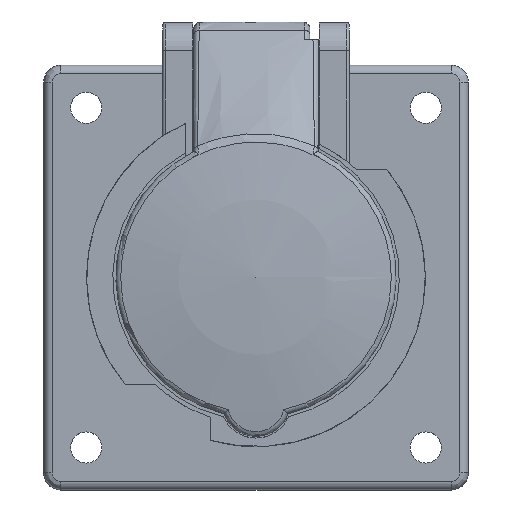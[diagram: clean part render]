
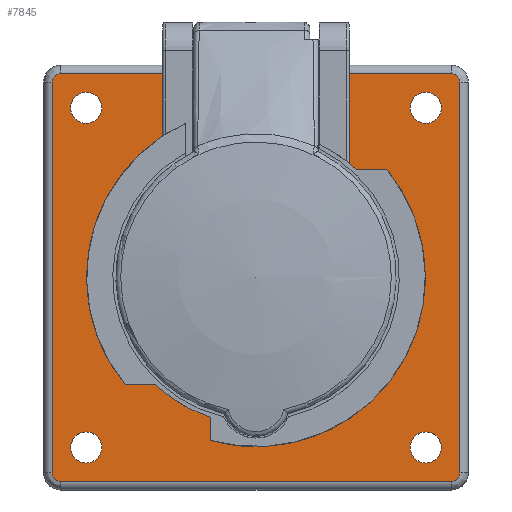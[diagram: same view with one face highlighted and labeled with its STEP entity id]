
A CAD part, top view. The second image highlights one B-rep face of the part: STEP entity #7845.
In plain terms, the highlighted planar face has unit normal (0, 0, 1).
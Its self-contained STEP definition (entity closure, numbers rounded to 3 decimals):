
#7845 = ADVANCED_FACE('',(#7846,#7916,#7936,#7956,#7976,#7996),#8118,.T.
  );
#7846 = FACE_BOUND('',#7847,.T.);
#7847 = EDGE_LOOP('',(#7848,#7858,#7867,#7875,#7884,#7892,#7901,#7909));
#7848 = ORIENTED_EDGE('',*,*,#7849,.T.);
#7849 = EDGE_CURVE('',#7850,#7852,#7854,.T.);
#7850 = VERTEX_POINT('',#7851);
#7851 = CARTESIAN_POINT('',(34.5,36.,4.));
#7852 = VERTEX_POINT('',#7853);
#7853 = CARTESIAN_POINT('',(-34.5,36.,4.));
#7854 = LINE('',#7855,#7856);
#7855 = CARTESIAN_POINT('',(34.5,36.,4.));
#7856 = VECTOR('',#7857,1.);
#7857 = DIRECTION('',(-1.,0.,0.));
#7858 = ORIENTED_EDGE('',*,*,#7859,.T.);
#7859 = EDGE_CURVE('',#7852,#7860,#7862,.T.);
#7860 = VERTEX_POINT('',#7861);
#7861 = CARTESIAN_POINT('',(-36.,34.5,4.));
#7862 = CIRCLE('',#7863,1.5);
#7863 = AXIS2_PLACEMENT_3D('',#7864,#7865,#7866);
#7864 = CARTESIAN_POINT('',(-34.5,34.5,4.));
#7865 = DIRECTION('',(0.,-0.,1.));
#7866 = DIRECTION('',(0.,1.,0.));
#7867 = ORIENTED_EDGE('',*,*,#7868,.T.);
#7868 = EDGE_CURVE('',#7860,#7869,#7871,.T.);
#7869 = VERTEX_POINT('',#7870);
#7870 = CARTESIAN_POINT('',(-36.,-34.5,4.));
#7871 = LINE('',#7872,#7873);
#7872 = CARTESIAN_POINT('',(-36.,34.5,4.));
#7873 = VECTOR('',#7874,1.);
#7874 = DIRECTION('',(0.,-1.,0.));
#7875 = ORIENTED_EDGE('',*,*,#7876,.T.);
#7876 = EDGE_CURVE('',#7869,#7877,#7879,.T.);
#7877 = VERTEX_POINT('',#7878);
#7878 = CARTESIAN_POINT('',(-34.5,-36.,4.));
#7879 = CIRCLE('',#7880,1.5);
#7880 = AXIS2_PLACEMENT_3D('',#7881,#7882,#7883);
#7881 = CARTESIAN_POINT('',(-34.5,-34.5,4.));
#7882 = DIRECTION('',(0.,0.,1.));
#7883 = DIRECTION('',(-1.,0.,0.));
#7884 = ORIENTED_EDGE('',*,*,#7885,.T.);
#7885 = EDGE_CURVE('',#7877,#7886,#7888,.T.);
#7886 = VERTEX_POINT('',#7887);
#7887 = CARTESIAN_POINT('',(34.5,-36.,4.));
#7888 = LINE('',#7889,#7890);
#7889 = CARTESIAN_POINT('',(-34.5,-36.,4.));
#7890 = VECTOR('',#7891,1.);
#7891 = DIRECTION('',(1.,0.,0.));
#7892 = ORIENTED_EDGE('',*,*,#7893,.T.);
#7893 = EDGE_CURVE('',#7886,#7894,#7896,.T.);
#7894 = VERTEX_POINT('',#7895);
#7895 = CARTESIAN_POINT('',(36.,-34.5,4.));
#7896 = CIRCLE('',#7897,1.5);
#7897 = AXIS2_PLACEMENT_3D('',#7898,#7899,#7900);
#7898 = CARTESIAN_POINT('',(34.5,-34.5,4.));
#7899 = DIRECTION('',(0.,0.,1.));
#7900 = DIRECTION('',(0.,-1.,0.));
#7901 = ORIENTED_EDGE('',*,*,#7902,.T.);
#7902 = EDGE_CURVE('',#7894,#7903,#7905,.T.);
#7903 = VERTEX_POINT('',#7904);
#7904 = CARTESIAN_POINT('',(36.,34.5,4.));
#7905 = LINE('',#7906,#7907);
#7906 = CARTESIAN_POINT('',(36.,-34.5,4.));
#7907 = VECTOR('',#7908,1.);
#7908 = DIRECTION('',(0.,1.,0.));
#7909 = ORIENTED_EDGE('',*,*,#7910,.T.);
#7910 = EDGE_CURVE('',#7903,#7850,#7911,.T.);
#7911 = CIRCLE('',#7912,1.5);
#7912 = AXIS2_PLACEMENT_3D('',#7913,#7914,#7915);
#7913 = CARTESIAN_POINT('',(34.5,34.5,4.));
#7914 = DIRECTION('',(0.,0.,1.));
#7915 = DIRECTION('',(1.,0.,-0.));
#7916 = FACE_BOUND('',#7917,.T.);
#7917 = EDGE_LOOP('',(#7918,#7929));
#7918 = ORIENTED_EDGE('',*,*,#7919,.F.);
#7919 = EDGE_CURVE('',#7920,#7922,#7924,.T.);
#7920 = VERTEX_POINT('',#7921);
#7921 = CARTESIAN_POINT('',(27.25,30.,4.));
#7922 = VERTEX_POINT('',#7923);
#7923 = CARTESIAN_POINT('',(32.75,30.,4.));
#7924 = CIRCLE('',#7925,2.75);
#7925 = AXIS2_PLACEMENT_3D('',#7926,#7927,#7928);
#7926 = CARTESIAN_POINT('',(30.,30.,4.));
#7927 = DIRECTION('',(0.,0.,1.));
#7928 = DIRECTION('',(-1.,0.,0.));
#7929 = ORIENTED_EDGE('',*,*,#7930,.F.);
#7930 = EDGE_CURVE('',#7922,#7920,#7931,.T.);
#7931 = CIRCLE('',#7932,2.75);
#7932 = AXIS2_PLACEMENT_3D('',#7933,#7934,#7935);
#7933 = CARTESIAN_POINT('',(30.,30.,4.));
#7934 = DIRECTION('',(0.,0.,1.));
#7935 = DIRECTION('',(1.,0.,-0.));
#7936 = FACE_BOUND('',#7937,.T.);
#7937 = EDGE_LOOP('',(#7938,#7949));
#7938 = ORIENTED_EDGE('',*,*,#7939,.F.);
#7939 = EDGE_CURVE('',#7940,#7942,#7944,.T.);
#7940 = VERTEX_POINT('',#7941);
#7941 = CARTESIAN_POINT('',(-32.75,30.,4.));
#7942 = VERTEX_POINT('',#7943);
#7943 = CARTESIAN_POINT('',(-27.25,30.,4.));
#7944 = CIRCLE('',#7945,2.75);
#7945 = AXIS2_PLACEMENT_3D('',#7946,#7947,#7948);
#7946 = CARTESIAN_POINT('',(-30.,30.,4.));
#7947 = DIRECTION('',(0.,0.,1.));
#7948 = DIRECTION('',(-1.,0.,0.));
#7949 = ORIENTED_EDGE('',*,*,#7950,.F.);
#7950 = EDGE_CURVE('',#7942,#7940,#7951,.T.);
#7951 = CIRCLE('',#7952,2.75);
#7952 = AXIS2_PLACEMENT_3D('',#7953,#7954,#7955);
#7953 = CARTESIAN_POINT('',(-30.,30.,4.));
#7954 = DIRECTION('',(0.,0.,1.));
#7955 = DIRECTION('',(1.,0.,-0.));
#7956 = FACE_BOUND('',#7957,.T.);
#7957 = EDGE_LOOP('',(#7958,#7969));
#7958 = ORIENTED_EDGE('',*,*,#7959,.F.);
#7959 = EDGE_CURVE('',#7960,#7962,#7964,.T.);
#7960 = VERTEX_POINT('',#7961);
#7961 = CARTESIAN_POINT('',(27.25,-30.,4.));
#7962 = VERTEX_POINT('',#7963);
#7963 = CARTESIAN_POINT('',(32.75,-30.,4.));
#7964 = CIRCLE('',#7965,2.75);
#7965 = AXIS2_PLACEMENT_3D('',#7966,#7967,#7968);
#7966 = CARTESIAN_POINT('',(30.,-30.,4.));
#7967 = DIRECTION('',(0.,0.,1.));
#7968 = DIRECTION('',(-1.,0.,0.));
#7969 = ORIENTED_EDGE('',*,*,#7970,.F.);
#7970 = EDGE_CURVE('',#7962,#7960,#7971,.T.);
#7971 = CIRCLE('',#7972,2.75);
#7972 = AXIS2_PLACEMENT_3D('',#7973,#7974,#7975);
#7973 = CARTESIAN_POINT('',(30.,-30.,4.));
#7974 = DIRECTION('',(0.,0.,1.));
#7975 = DIRECTION('',(1.,0.,-0.));
#7976 = FACE_BOUND('',#7977,.T.);
#7977 = EDGE_LOOP('',(#7978,#7989));
#7978 = ORIENTED_EDGE('',*,*,#7979,.F.);
#7979 = EDGE_CURVE('',#7980,#7982,#7984,.T.);
#7980 = VERTEX_POINT('',#7981);
#7981 = CARTESIAN_POINT('',(-32.75,-30.,4.));
#7982 = VERTEX_POINT('',#7983);
#7983 = CARTESIAN_POINT('',(-27.25,-30.,4.));
#7984 = CIRCLE('',#7985,2.75);
#7985 = AXIS2_PLACEMENT_3D('',#7986,#7987,#7988);
#7986 = CARTESIAN_POINT('',(-30.,-30.,4.));
#7987 = DIRECTION('',(0.,0.,1.));
#7988 = DIRECTION('',(-1.,0.,0.));
#7989 = ORIENTED_EDGE('',*,*,#7990,.F.);
#7990 = EDGE_CURVE('',#7982,#7980,#7991,.T.);
#7991 = CIRCLE('',#7992,2.75);
#7992 = AXIS2_PLACEMENT_3D('',#7993,#7994,#7995);
#7993 = CARTESIAN_POINT('',(-30.,-30.,4.));
#7994 = DIRECTION('',(0.,0.,1.));
#7995 = DIRECTION('',(1.,0.,-0.));
#7996 = FACE_BOUND('',#7997,.T.);
#7997 = EDGE_LOOP('',(#7998,#8009,#8017,#8026,#8034,#8043,#8051,#8060,
    #8069,#8078,#8086,#8095,#8103,#8112));
#7998 = ORIENTED_EDGE('',*,*,#7999,.T.);
#7999 = EDGE_CURVE('',#8000,#8002,#8004,.T.);
#8000 = VERTEX_POINT('',#8001);
#8001 = CARTESIAN_POINT('',(-5.88,23.526,4.));
#8002 = VERTEX_POINT('',#8003);
#8003 = CARTESIAN_POINT('',(5.88,23.526,4.));
#8004 = CIRCLE('',#8005,24.25);
#8005 = AXIS2_PLACEMENT_3D('',#8006,#8007,#8008);
#8006 = CARTESIAN_POINT('',(0.,0.,4.));
#8007 = DIRECTION('',(0.,0.,-1.));
#8008 = DIRECTION('',(-0.242,0.97,0.));
#8009 = ORIENTED_EDGE('',*,*,#8010,.T.);
#8010 = EDGE_CURVE('',#8002,#8011,#8013,.T.);
#8011 = VERTEX_POINT('',#8012);
#8012 = CARTESIAN_POINT('',(16.,23.526,4.));
#8013 = LINE('',#8014,#8015);
#8014 = CARTESIAN_POINT('',(5.88,23.526,4.));
#8015 = VECTOR('',#8016,1.);
#8016 = DIRECTION('',(1.,0.,0.));
#8017 = ORIENTED_EDGE('',*,*,#8018,.T.);
#8018 = EDGE_CURVE('',#8011,#8019,#8021,.T.);
#8019 = VERTEX_POINT('',#8020);
#8020 = CARTESIAN_POINT('',(16.5,22.749,4.));
#8021 = ELLIPSE('',#8022,0.778,0.5);
#8022 = AXIS2_PLACEMENT_3D('',#8023,#8024,#8025);
#8023 = CARTESIAN_POINT('',(16.,22.749,4.));
#8024 = DIRECTION('',(0.,0.,-1.));
#8025 = DIRECTION('',(0.,1.,0.));
#8026 = ORIENTED_EDGE('',*,*,#8027,.T.);
#8027 = EDGE_CURVE('',#8019,#8028,#8030,.T.);
#8028 = VERTEX_POINT('',#8029);
#8029 = CARTESIAN_POINT('',(16.5,19.637,4.));
#8030 = LINE('',#8031,#8032);
#8031 = CARTESIAN_POINT('',(16.5,22.749,4.));
#8032 = VECTOR('',#8033,1.);
#8033 = DIRECTION('',(0.,-1.,0.));
#8034 = ORIENTED_EDGE('',*,*,#8035,.T.);
#8035 = EDGE_CURVE('',#8028,#8036,#8038,.T.);
#8036 = VERTEX_POINT('',#8037);
#8037 = CARTESIAN_POINT('',(16.,18.859,4.));
#8038 = ELLIPSE('',#8039,0.778,0.5);
#8039 = AXIS2_PLACEMENT_3D('',#8040,#8041,#8042);
#8040 = CARTESIAN_POINT('',(16.,19.637,4.));
#8041 = DIRECTION('',(0.,0.,-1.));
#8042 = DIRECTION('',(0.,-1.,0.));
#8043 = ORIENTED_EDGE('',*,*,#8044,.F.);
#8044 = EDGE_CURVE('',#8045,#8036,#8047,.T.);
#8045 = VERTEX_POINT('',#8046);
#8046 = CARTESIAN_POINT('',(15.244,18.859,4.));
#8047 = LINE('',#8048,#8049);
#8048 = CARTESIAN_POINT('',(15.244,18.859,4.));
#8049 = VECTOR('',#8050,1.);
#8050 = DIRECTION('',(1.,0.,0.));
#8051 = ORIENTED_EDGE('',*,*,#8052,.T.);
#8052 = EDGE_CURVE('',#8045,#8053,#8055,.T.);
#8053 = VERTEX_POINT('',#8054);
#8054 = CARTESIAN_POINT('',(4.476,-23.833,4.));
#8055 = CIRCLE('',#8056,24.25);
#8056 = AXIS2_PLACEMENT_3D('',#8057,#8058,#8059);
#8057 = CARTESIAN_POINT('',(0.,0.,4.));
#8058 = DIRECTION('',(0.,0.,-1.));
#8059 = DIRECTION('',(0.629,0.778,0.));
#8060 = ORIENTED_EDGE('',*,*,#8061,.F.);
#8061 = EDGE_CURVE('',#8062,#8053,#8064,.T.);
#8062 = VERTEX_POINT('',#8063);
#8063 = CARTESIAN_POINT('',(-4.476,-23.833,4.));
#8064 = CIRCLE('',#8065,4.8);
#8065 = AXIS2_PLACEMENT_3D('',#8066,#8067,#8068);
#8066 = CARTESIAN_POINT('',(0.,-22.1,4.));
#8067 = DIRECTION('',(0.,0.,1.));
#8068 = DIRECTION('',(-0.933,-0.361,0.));
#8069 = ORIENTED_EDGE('',*,*,#8070,.T.);
#8070 = EDGE_CURVE('',#8062,#8071,#8073,.T.);
#8071 = VERTEX_POINT('',#8072);
#8072 = CARTESIAN_POINT('',(-15.244,18.859,4.));
#8073 = CIRCLE('',#8074,24.25);
#8074 = AXIS2_PLACEMENT_3D('',#8075,#8076,#8077);
#8075 = CARTESIAN_POINT('',(0.,0.,4.));
#8076 = DIRECTION('',(0.,0.,-1.));
#8077 = DIRECTION('',(-0.185,-0.983,-0.));
#8078 = ORIENTED_EDGE('',*,*,#8079,.T.);
#8079 = EDGE_CURVE('',#8071,#8080,#8082,.T.);
#8080 = VERTEX_POINT('',#8081);
#8081 = CARTESIAN_POINT('',(-16.,18.859,4.));
#8082 = LINE('',#8083,#8084);
#8083 = CARTESIAN_POINT('',(-15.244,18.859,4.));
#8084 = VECTOR('',#8085,1.);
#8085 = DIRECTION('',(-1.,0.,0.));
#8086 = ORIENTED_EDGE('',*,*,#8087,.T.);
#8087 = EDGE_CURVE('',#8080,#8088,#8090,.T.);
#8088 = VERTEX_POINT('',#8089);
#8089 = CARTESIAN_POINT('',(-16.5,19.637,4.));
#8090 = ELLIPSE('',#8091,0.778,0.5);
#8091 = AXIS2_PLACEMENT_3D('',#8092,#8093,#8094);
#8092 = CARTESIAN_POINT('',(-16.,19.637,4.));
#8093 = DIRECTION('',(0.,0.,-1.));
#8094 = DIRECTION('',(0.,1.,0.));
#8095 = ORIENTED_EDGE('',*,*,#8096,.F.);
#8096 = EDGE_CURVE('',#8097,#8088,#8099,.T.);
#8097 = VERTEX_POINT('',#8098);
#8098 = CARTESIAN_POINT('',(-16.5,22.749,4.));
#8099 = LINE('',#8100,#8101);
#8100 = CARTESIAN_POINT('',(-16.5,22.749,4.));
#8101 = VECTOR('',#8102,1.);
#8102 = DIRECTION('',(0.,-1.,0.));
#8103 = ORIENTED_EDGE('',*,*,#8104,.T.);
#8104 = EDGE_CURVE('',#8097,#8105,#8107,.T.);
#8105 = VERTEX_POINT('',#8106);
#8106 = CARTESIAN_POINT('',(-16.,23.526,4.));
#8107 = ELLIPSE('',#8108,0.778,0.5);
#8108 = AXIS2_PLACEMENT_3D('',#8109,#8110,#8111);
#8109 = CARTESIAN_POINT('',(-16.,22.749,4.));
#8110 = DIRECTION('',(0.,0.,-1.));
#8111 = DIRECTION('',(0.,-1.,0.));
#8112 = ORIENTED_EDGE('',*,*,#8113,.T.);
#8113 = EDGE_CURVE('',#8105,#8000,#8114,.T.);
#8114 = LINE('',#8115,#8116);
#8115 = CARTESIAN_POINT('',(-16.,23.526,4.));
#8116 = VECTOR('',#8117,1.);
#8117 = DIRECTION('',(1.,0.,0.));
#8118 = PLANE('',#8119);
#8119 = AXIS2_PLACEMENT_3D('',#8120,#8121,#8122);
#8120 = CARTESIAN_POINT('',(0.,0.,4.));
#8121 = DIRECTION('',(0.,0.,1.));
#8122 = DIRECTION('',(-1.,0.,0.));
